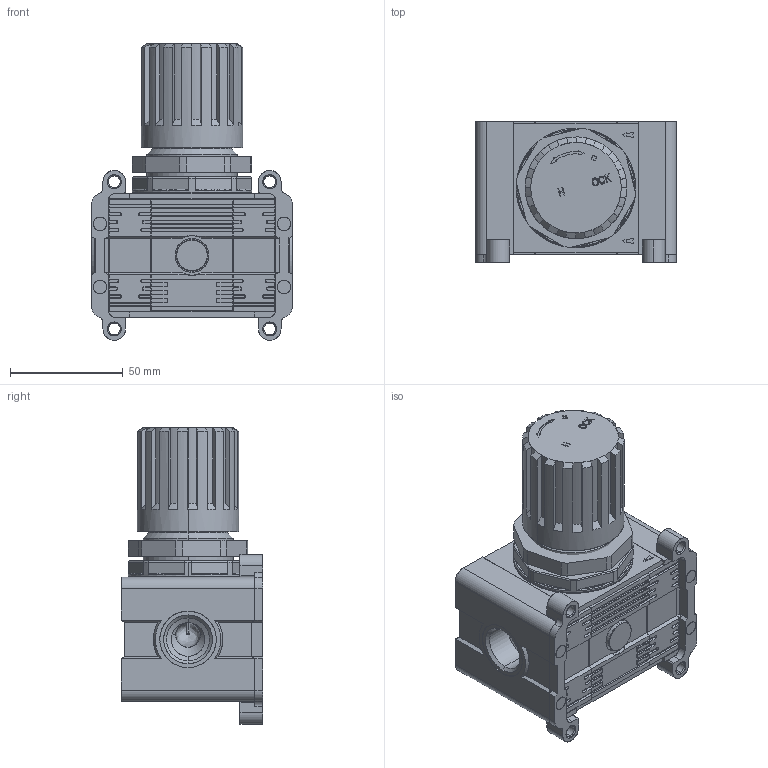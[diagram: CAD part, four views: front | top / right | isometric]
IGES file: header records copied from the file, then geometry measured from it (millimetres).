
Start section: SolidWorks IGES file using analytic representation for surfaces
Global section: file name: K:\Disegni Esecutivi\Trattamento Aria\Assiemi_FRL\FRL-MEDIA\T020\T020_igs\T020205030000A.IGS; native system: SolidWorks 2011; preprocessor: SolidWorks 2011; author: cad05; date: 120220.093637; units: millimetre
Bounding box: 89 x 62.5 x 131.35 mm (x, y, z)
Surface area: 150994.5 mm2 (no closed solid volume)
Topology: 0 solids, 0 shells, 2475 faces, 26683 edges, 26669 vertices
Faces by surface type: bspline 1529, revolution 946
